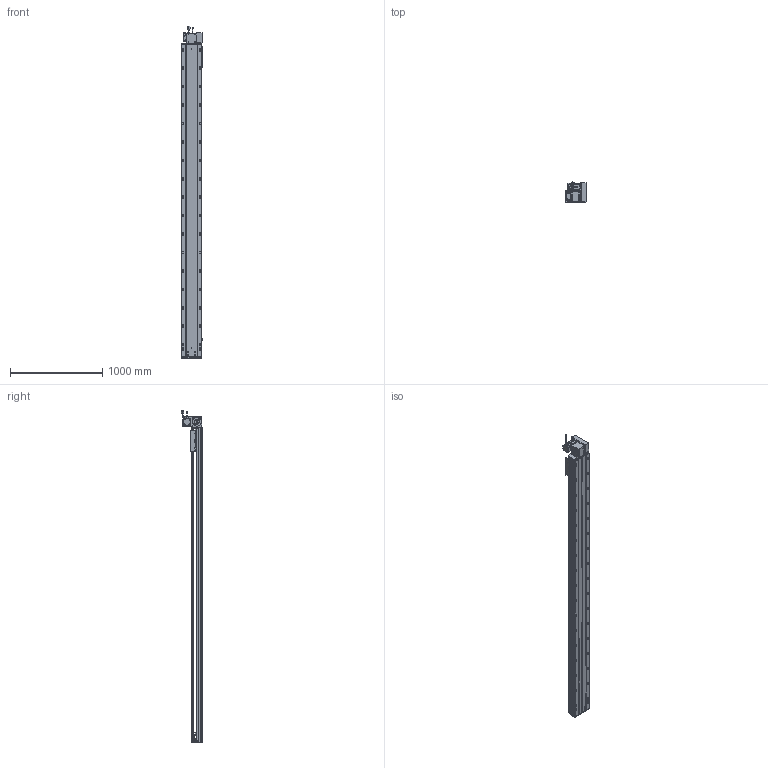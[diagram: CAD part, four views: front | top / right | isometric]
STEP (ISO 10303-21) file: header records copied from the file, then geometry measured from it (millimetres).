
FILE_DESCRIPTION (( 'STEP AP203' ), '1' );
FILE_NAME ('RY220-T-300-UR.SLDASM_3050.step', '2022-07-25T08:46:14', ( '' ), ( '' ), 'SwSTEP 2.0', 'SolidWorks 2016', '' );
FILE_SCHEMA (( 'CONFIG_CONTROL_DESIGN' ));
Length unit declared in the file: millimetre
Products named in the file (14): 怢湛750W_ECMA-CX0807ES; RY220翋肮祭謫釱; RY220-T-湍謫欶(鍼踢); 滅袉蝶18-15; RY220圉猾敕々湍臏賑輸; RY220-T-300-奻裔啣_3050; RY220-同步轮副支撑座6304×2; RY220-俋离672覜茼んえ; RY220翋肮祭謫裔啣; 110A-T-肮祭謫釱傷裔; RY220-T菁釱-300_3050; 覜茼ん672; RY220-T-蛌殏萇儂假蚾啣(750W); RY220-T-300-UR.SLDASM_3050
Assembly tree (18 placements, depth 2):
  RY220-T-300-UR.SLDASM_3050
    RY220-T菁釱-300_3050
    RY220翋肮祭謫釱
    覜茼ん672  x3
    RY220圉猾敕々湍臏賑輸
    RY220-T-300-奻裔啣_3050
    RY220-俋离672覜茼んえ
    滅袉蝶18-15  x3
    RY220翋肮祭謫裔啣  x2
    110A-T-肮祭謫釱傷裔
    怢湛750W_ECMA-CX0807ES
    RY220-T-湍謫欶(鍼踢)
    RY220-T-蛌殏萇儂假蚾啣(750W)
    RY220-同步轮副支撑座6304×2
Bounding box: 238.7 x 231.74 x 3603.27 mm (x, y, z)
Volume: 25523410.8 mm3; surface area: 7905398.2 mm2
Topology: 19 solids, 19 shells, 3050 faces, 8443 edges, 5282 vertices
Faces by surface type: cylinder 1514, plane 1069, cone 385, bspline 56, sphere 16, torus 10
Entity records: 101827 total; most frequent: CARTESIAN_POINT 28715, ORIENTED_EDGE 15098, DIRECTION 14608, EDGE_CURVE 7549, AXIS2_PLACEMENT_3D 5284, VERTEX_POINT 4906, VECTOR 4040, LINE 4040
